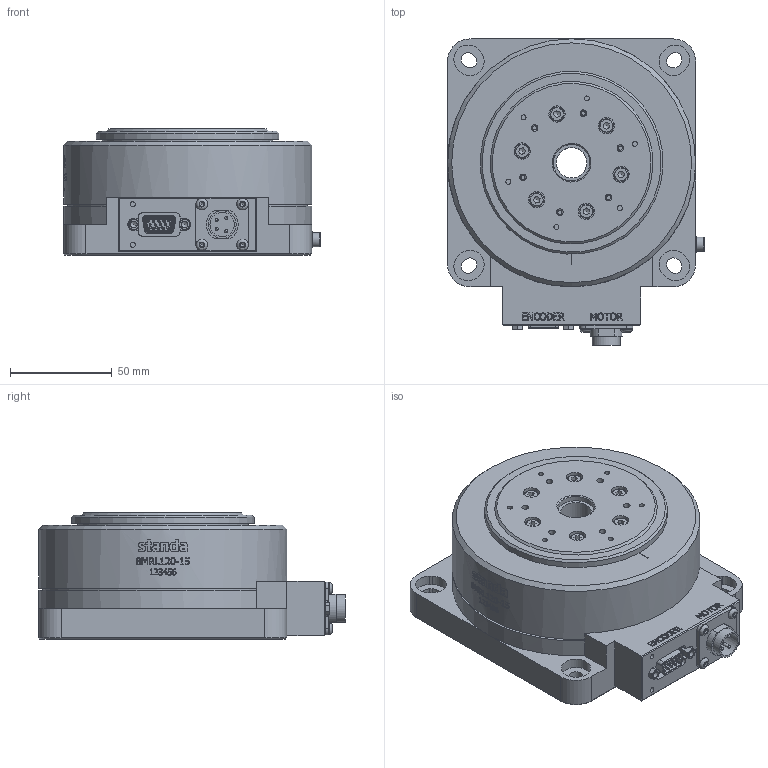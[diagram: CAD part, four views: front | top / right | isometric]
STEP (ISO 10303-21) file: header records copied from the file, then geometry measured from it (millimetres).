
FILE_DESCRIPTION(/* description */ (''),/* implementation_level */ '2;1');
FILE_NAME(/* name */ 'U:\KONSTRUKTORIAI\DOKUMENTACIJA\8\8MRL ser\8MRL120-15\STEP\8MRL120-15 SB.stp',/* time_stamp */ '2020-06-10T10:32:59+03:00',/* author */ ('dsgn36'),/* organization */ (''),/* preprocessor_version */ 'ST-DEVELOPER v15.2',/* originating_system */ 'Autodesk Inventor 2014',/* authorisation */ '');
FILE_SCHEMA (('CONFIG_CONTROL_DESIGN'));
Length unit declared in the file: millimetre
Products named in the file (2): Part3; 8MRL120-15 SB
Bounding box: 126.3 x 150.7 x 62 mm (x, y, z)
Volume: 754463.9 mm3; surface area: 74519.3 mm2
Topology: 1 solids, 14 shells, 1107 faces, 2843 edges, 1862 vertices
Faces by surface type: plane 557, bspline 236, cylinder 233, cone 43, sphere 19, torus 19
Full cylindrical faces by diameter (mm): 1 x24, 1.5 x8, 2 x6, 2.459 x8, 2.5 x2, 3.2 x2, 3.242 x6, 3.302 x2, 5.7 x4, 7 x7, 8 x6, 9 x1, 11.4 x1, 12 x1, 13.8 x1, 15 x1, 15.4 x1, 17 x1, 18 x2, 20 x1, 78 x1, 80 x1, 84 x1, 86 x1, 90 x1, 122 x1
Entity records: 40534 total; most frequent: CARTESIAN_POINT 16026, ORIENTED_EDGE 5258, DIRECTION 4398, EDGE_CURVE 2629, VERTEX_POINT 1790, AXIS2_PLACEMENT_3D 1512, LINE 1374, VECTOR 1374
